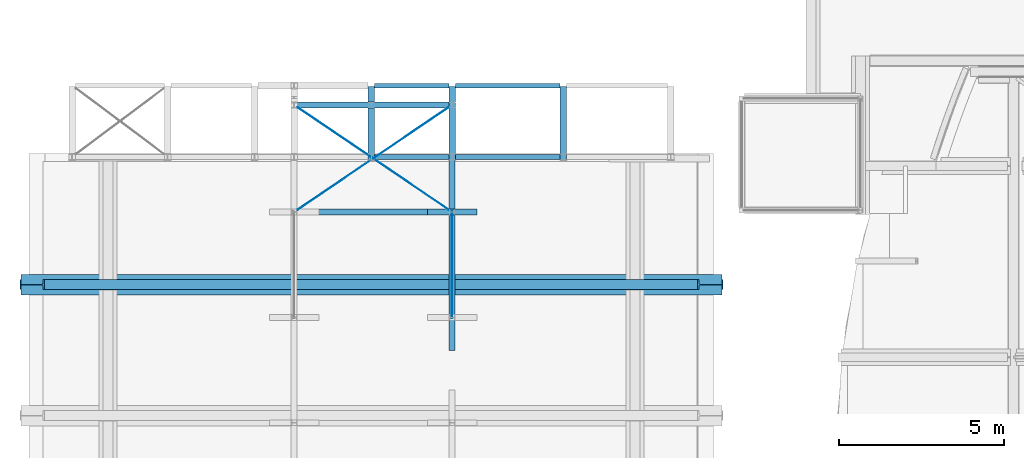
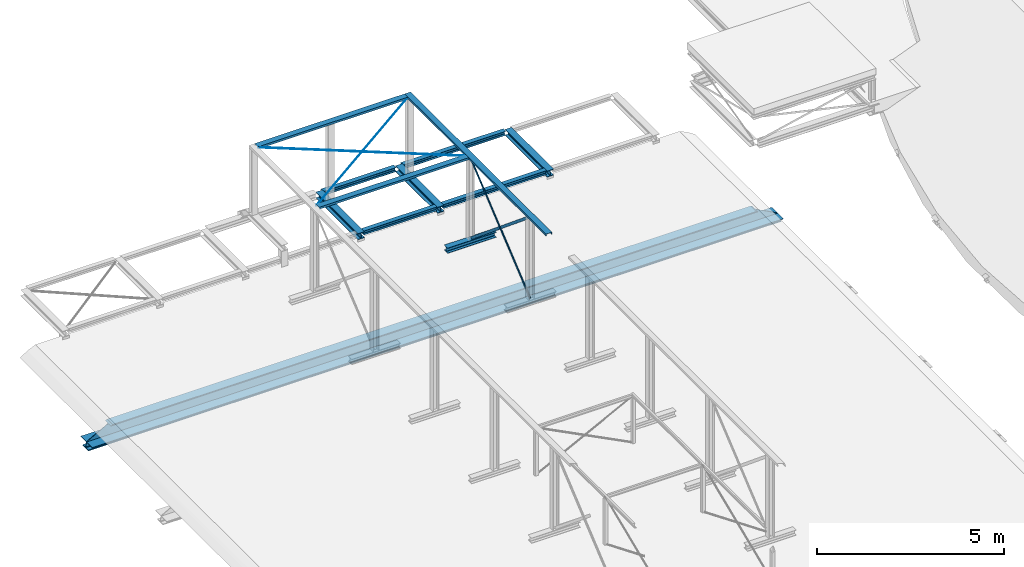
# One storey, part 20 of 50: 16 beams.
"""IFC2X3 building model written with IfcOpenShell, lengths in millimetres."""

from ifc_helpers import new_model, entity, si_unit, converted_unit, derived_unit, direction, frame, frame_2d, origin, place, context, subcontext, project, spatial, polyline, circle_curve, parameter, trimmed, segment, composite_curve, rectangle, circle, i_section, outline, extrude, clip, halfspace, bounded_halfspace, source, transform, mapped, material, material_list, type_object, type_shapes, element, save


model = new_model("IFC2X3")

# Units and contexts
model_context = context("Model", 3, precision=0.01, world=origin(), true_north=direction((6.12303176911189e-17, 1.0)))
body_context = subcontext(model_context, "Body", "Model", "MODEL_VIEW")
ifc_project = project(units=[si_unit("LENGTHUNIT", "METRE", prefix="MILLI"), si_unit("AREAUNIT", "SQUARE_METRE", prefix="MILLI"), si_unit("VOLUMEUNIT", "CUBIC_METRE"), converted_unit("PLANEANGLEUNIT", "DEGREE", entity("IfcRatioMeasure", 0.0174532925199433), si_unit("PLANEANGLEUNIT", "RADIAN"), dimensions=[0, 0, 0, 0, 0, 0, 0]), si_unit("MASSUNIT", "GRAM", prefix="KILO"), derived_unit("MASSDENSITYUNIT", [(si_unit("MASSUNIT", "GRAM", prefix="KILO"), 1), (si_unit("LENGTHUNIT", "METRE"), -3)]), derived_unit("MOMENTOFINERTIAUNIT", [(si_unit("LENGTHUNIT", "METRE"), 4)]), si_unit("TIMEUNIT", "SECOND"), si_unit("FREQUENCYUNIT", "HERTZ"), si_unit("THERMODYNAMICTEMPERATUREUNIT", "DEGREE_CELSIUS"), derived_unit("THERMALTRANSMITTANCEUNIT", [(si_unit("MASSUNIT", "GRAM", prefix="KILO"), 1), (si_unit("THERMODYNAMICTEMPERATUREUNIT", "KELVIN"), -1), (si_unit("TIMEUNIT", "SECOND"), -3)]), derived_unit("VOLUMETRICFLOWRATEUNIT", [(si_unit("LENGTHUNIT", "METRE"), 3), (si_unit("TIMEUNIT", "SECOND"), -1)]), si_unit("ELECTRICCURRENTUNIT", "AMPERE"), si_unit("ELECTRICVOLTAGEUNIT", "VOLT"), si_unit("POWERUNIT", "WATT"), si_unit("FORCEUNIT", "NEWTON", prefix="KILO"), si_unit("ILLUMINANCEUNIT", "LUX"), si_unit("LUMINOUSFLUXUNIT", "LUMEN"), si_unit("LUMINOUSINTENSITYUNIT", "CANDELA"), derived_unit("USERDEFINED", [(si_unit("MASSUNIT", "GRAM", prefix="KILO"), -1), (si_unit("LENGTHUNIT", "METRE"), -2), (si_unit("TIMEUNIT", "SECOND"), 3), (si_unit("LUMINOUSFLUXUNIT", "LUMEN"), 1)]), derived_unit("LINEARVELOCITYUNIT", [(si_unit("LENGTHUNIT", "METRE"), 1), (si_unit("TIMEUNIT", "SECOND"), -1)]), si_unit("PRESSUREUNIT", "PASCAL"), derived_unit("USERDEFINED", [(si_unit("LENGTHUNIT", "METRE"), -2), (si_unit("MASSUNIT", "GRAM", prefix="KILO"), 1), (si_unit("TIMEUNIT", "SECOND"), -2)]), derived_unit("LINEARFORCEUNIT", [(si_unit("MASSUNIT", "GRAM", prefix="KILO"), 1), (si_unit("LENGTHUNIT", "METRE"), 1), (si_unit("TIMEUNIT", "SECOND"), -2), (si_unit("LENGTHUNIT", "METRE"), -1)]), derived_unit("PLANARFORCEUNIT", [(si_unit("MASSUNIT", "GRAM", prefix="KILO"), 1), (si_unit("LENGTHUNIT", "METRE"), 1), (si_unit("TIMEUNIT", "SECOND"), -2), (si_unit("LENGTHUNIT", "METRE"), -2)])], contexts=[model_context])

# Site, building, storey
site_placement = place(None, origin())
site = spatial("IfcSite", under=ifc_project, at=site_placement, Name="Theater aan de Parade", CompositionType="ELEMENT")
building_placement = place(site_placement, origin())
building = spatial("IfcBuilding", under=site, at=building_placement, Name="Theater aan de Parade", CompositionType="ELEMENT")
storey_placement = place(building_placement, frame((0.0, 0.0, 15820.0)))
storey = spatial("IfcBuildingStorey", under=building, at=storey_placement, Name="04 vierde verdieping", CompositionType="ELEMENT", Elevation=15820.0)

# Beams
ifc_material_1 = material(Name="00_PBT_MAT_staal_S355")
beam_type_1 = type_object("IfcBeamType", Name="28_PBT_SF_staal_H-profiel:S355_HE180A", PredefinedType="NOTDEFINED")
beam_1_placement = place(storey_placement, frame((27803.8569986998, 39798.8337248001, 0.0)))
element("IfcBeam", 1, at=beam_1_placement, inside=storey, type_object=beam_type_1, material=ifc_material_1, Name="28_PBT_SF_staal_H-profiel:S355_HE180A", ObjectType="28_PBT_SF_staal_H-profiel:S355_HE180A", context=body_context, shape_type="SweptSolid", body=[
    extrude(i_section(OverallWidth=180.000000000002, OverallDepth=171.0, WebThickness=5.99999999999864, FlangeThickness=9.49999999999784, FilletRadius=14.9999999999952, at=frame_2d((-2.16715534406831e-12, -4.33431068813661e-12), x_axis=(0.0, 1.0))), frame((0.0, 0.0, 184.499999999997), z_axis=(1.0, 0.0, 0.0), x_axis=(0.0, 0.0, -1.0)), (0.0, 0.0, 1.0), 1500.00000000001),
])
beam_type_2 = type_object("IfcBeamType", Name="28_PBT_SF_staal_H-profiel:S355_HE140A", PredefinedType="NOTDEFINED")
beam_2_placement = place(storey_placement, frame((26203.8570025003, 43641.6918178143, 0.0)))
element("IfcBeam", 2, at=beam_2_placement, inside=storey, type_object=beam_type_2, material=ifc_material_1, Name="28_PBT_SF_staal_H-profiel:S355_HE140A", ObjectType="28_PBT_SF_staal_H-profiel:S355_HE140A", context=body_context, shape_type="SweptSolid", body=[
    extrude(outline(composite_curve([segment(polyline([(58.0, -70.0), (66.5000000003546, -70.0)]), True, "CONTINUOUS"), segment(polyline([(66.5000000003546, -70.0), (66.4999999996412, 70.0)]), True, "CONTINUOUS"), segment(polyline([(66.4999999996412, 70.0), (58.0, 70.0)]), True, "CONTINUOUS"), segment(polyline([(58.0, 70.0), (58.0, 14.7500000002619)]), True, "CONTINUOUS"), segment(trimmed(circle_curve(frame_2d((46.0, 14.7500000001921), x_axis=(1.0, 0.0)), 11.9999999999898), [parameter(269.999999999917)], [parameter(0.0)], True, "PARAMETER"), False, "CONTINUOUS"), segment(polyline([(46.0, 2.75000000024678), (-46.0, 2.74999999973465)]), True, "CONTINUOUS"), segment(trimmed(circle_curve(frame_2d((-46.0, 14.7499999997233), x_axis=(0.0, -1.0)), 11.9999999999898), [parameter(269.999999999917)], [parameter(0.0)], True, "PARAMETER"), False, "CONTINUOUS"), segment(polyline([(-58.0, 14.7499999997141), (-58.0, 70.0)]), True, "CONTINUOUS"), segment(polyline([(-58.0, 70.0), (-66.5000000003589, 70.0)]), True, "CONTINUOUS"), segment(polyline([(-66.5000000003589, 70.0), (-66.4999999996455, -70.0)]), True, "CONTINUOUS"), segment(polyline([(-66.4999999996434, -70.0), (-58.0, -70.0)]), True, "CONTINUOUS"), segment(polyline([(-58.0, -70.0), (-58.0, -14.7500000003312)]), True, "CONTINUOUS"), segment(trimmed(circle_curve(frame_2d((-46.0, -14.7500000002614), x_axis=(-1.0, 0.0)), 11.9999999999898), [parameter(269.999999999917)], [parameter(0.0)], True, "PARAMETER"), False, "CONTINUOUS"), segment(polyline([(-46.0, -2.75000000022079), (46.0, -2.74999999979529)]), True, "CONTINUOUS"), segment(trimmed(circle_curve(frame_2d((46.0, -14.7499999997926), x_axis=(0.0, 1.0)), 11.9999999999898), [parameter(269.999999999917)], [parameter(0.0)], True, "PARAMETER"), False, "CONTINUOUS"), segment(polyline([(58.0, -14.7499999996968), (58.0, -70.0)]), True, "CONTINUOUS")], self_intersect=False)), frame((0.0, 0.0, 263.499999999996), z_axis=(1.0, 0.0, 0.0), x_axis=(0.0, 0.0, -1.0)), (0.0, 0.0, 1.0), 2254.49999619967),
])
beam_3_placement = place(storey_placement, frame((28658.3569986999, 43641.6918178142, 0.0)))
element("IfcBeam", 3, at=beam_3_placement, inside=storey, type_object=beam_type_2, material=ifc_material_1, Name="28_PBT_SF_staal_H-profiel:S355_HE140A", ObjectType="28_PBT_SF_staal_H-profiel:S355_HE140A", context=body_context, shape_type="SweptSolid", body=[
    extrude(outline(composite_curve([segment(polyline([(58.0, -70.0), (66.5000000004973, -70.0)]), True, "CONTINUOUS"), segment(polyline([(66.5000000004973, -70.0), (66.4999999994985, 70.0)]), True, "CONTINUOUS"), segment(polyline([(66.4999999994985, 70.0), (58.0, 70.0)]), True, "CONTINUOUS"), segment(polyline([(58.0, 70.0), (58.0, 14.7500000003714)]), True, "CONTINUOUS"), segment(trimmed(circle_curve(frame_2d((46.0, 14.7500000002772), x_axis=(1.0, 0.0)), 11.9999999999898), [parameter(269.999999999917)], [parameter(0.0)], True, "PARAMETER"), False, "CONTINUOUS"), segment(polyline([(46.0, 2.7500000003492), (-46.0, 2.74999999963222)]), True, "CONTINUOUS"), segment(trimmed(circle_curve(frame_2d((-46.0, 14.7499999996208), x_axis=(0.0, -1.0)), 11.9999999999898), [parameter(269.999999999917)], [parameter(0.0)], True, "PARAMETER"), False, "CONTINUOUS"), segment(polyline([(-58.0, 14.7499999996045), (-58.0, 70.0)]), True, "CONTINUOUS"), segment(polyline([(-58.0, 70.0), (-66.5000000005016, 70.0)]), True, "CONTINUOUS"), segment(polyline([(-66.5000000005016, 70.0), (-66.4999999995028, -70.0)]), True, "CONTINUOUS"), segment(polyline([(-66.4999999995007, -70.0), (-58.0, -70.0)]), True, "CONTINUOUS"), segment(polyline([(-58.0, -70.0), (-58.0, -14.7500000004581)]), True, "CONTINUOUS"), segment(trimmed(circle_curve(frame_2d((-46.0, -14.7500000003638), x_axis=(-1.0, 0.0)), 11.9999999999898), [parameter(269.999999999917)], [parameter(0.0)], True, "PARAMETER"), False, "CONTINUOUS"), segment(polyline([(-46.0, -2.75000000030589), (46.0, -2.74999999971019)]), True, "CONTINUOUS"), segment(trimmed(circle_curve(frame_2d((46.0, -14.7499999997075), x_axis=(0.0, 1.0)), 11.9999999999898), [parameter(269.999999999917)], [parameter(0.0)], True, "PARAMETER"), False, "CONTINUOUS"), segment(polyline([(58.0, -14.7499999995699), (58.0, -70.0)]), True, "CONTINUOUS")], self_intersect=False)), frame((0.0, 0.0, 263.499999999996), z_axis=(1.0, 0.0, 0.0), x_axis=(0.0, 0.0, -1.0)), (0.0, 0.0, 1.0), 3174.66547607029),
])
beam_4_placement = place(storey_placement, frame((26203.8570025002, 41473.3083270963, 0.0)))
element("IfcBeam", 4, at=beam_4_placement, inside=storey, type_object=beam_type_2, material=ifc_material_1, Name="28_PBT_SF_staal_H-profiel:S355_HE140A", ObjectType="28_PBT_SF_staal_H-profiel:S355_HE140A", context=body_context, shape_type="SweptSolid", body=[
    extrude(outline(composite_curve([segment(polyline([(58.0, -70.0), (66.5000000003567, -70.0)]), True, "CONTINUOUS"), segment(polyline([(66.5000000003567, -70.0), (66.4999999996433, 70.0)]), True, "CONTINUOUS"), segment(polyline([(66.4999999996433, 70.0), (58.0, 70.0)]), True, "CONTINUOUS"), segment(polyline([(58.0, 70.0), (58.0, 14.7500000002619)]), True, "CONTINUOUS"), segment(trimmed(circle_curve(frame_2d((46.0, 14.7500000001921), x_axis=(1.0, 0.0)), 11.9999999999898), [parameter(269.999999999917)], [parameter(0.0)], True, "PARAMETER"), False, "CONTINUOUS"), segment(polyline([(46.0, 2.75000000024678), (-46.0, 2.74999999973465)]), True, "CONTINUOUS"), segment(trimmed(circle_curve(frame_2d((-46.0, 14.7499999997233), x_axis=(0.0, -1.0)), 11.9999999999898), [parameter(269.999999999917)], [parameter(0.0)], True, "PARAMETER"), False, "CONTINUOUS"), segment(polyline([(-58.0, 14.7499999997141), (-58.0, 70.0)]), True, "CONTINUOUS"), segment(polyline([(-58.0, 70.0), (-66.5000000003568, 70.0)]), True, "CONTINUOUS"), segment(polyline([(-66.5000000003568, 70.0), (-66.4999999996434, -70.0)]), True, "CONTINUOUS"), segment(polyline([(-66.4999999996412, -70.0), (-58.0, -70.0)]), True, "CONTINUOUS"), segment(polyline([(-58.0, -70.0), (-58.0, -14.7500000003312)]), True, "CONTINUOUS"), segment(trimmed(circle_curve(frame_2d((-46.0, -14.7500000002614), x_axis=(-1.0, 0.0)), 11.9999999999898), [parameter(269.999999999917)], [parameter(0.0)], True, "PARAMETER"), False, "CONTINUOUS"), segment(polyline([(-46.0, -2.75000000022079), (46.0, -2.74999999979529)]), True, "CONTINUOUS"), segment(trimmed(circle_curve(frame_2d((46.0, -14.7499999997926), x_axis=(0.0, 1.0)), 11.9999999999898), [parameter(269.999999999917)], [parameter(0.0)], True, "PARAMETER"), False, "CONTINUOUS"), segment(polyline([(58.0, -14.7499999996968), (58.0, -70.0)]), True, "CONTINUOUS")], self_intersect=False)), frame((0.0, 0.0, 295.5), z_axis=(1.0, 0.0, 0.0), x_axis=(0.0, 0.0, -1.0)), (0.0, 0.0, 1.0), 2254.49999619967),
])
beam_5_placement = place(storey_placement, frame((28658.3569986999, 41473.3083270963, 0.0)))
element("IfcBeam", 5, at=beam_5_placement, inside=storey, type_object=beam_type_2, material=ifc_material_1, Name="28_PBT_SF_staal_H-profiel:S355_HE140A", ObjectType="28_PBT_SF_staal_H-profiel:S355_HE140A", context=body_context, shape_type="SweptSolid", body=[
    extrude(outline(composite_curve([segment(polyline([(58.0, -70.0), (66.5000000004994, -70.0)]), True, "CONTINUOUS"), segment(polyline([(66.5000000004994, -70.0), (66.4999999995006, 70.0)]), True, "CONTINUOUS"), segment(polyline([(66.4999999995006, 70.0), (58.0, 70.0)]), True, "CONTINUOUS"), segment(polyline([(58.0, 70.0), (58.0, 14.7500000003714)]), True, "CONTINUOUS"), segment(trimmed(circle_curve(frame_2d((46.0, 14.7500000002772), x_axis=(1.0, 0.0)), 11.9999999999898), [parameter(269.999999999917)], [parameter(0.0)], True, "PARAMETER"), False, "CONTINUOUS"), segment(polyline([(46.0, 2.7500000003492), (-46.0, 2.74999999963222)]), True, "CONTINUOUS"), segment(trimmed(circle_curve(frame_2d((-46.0, 14.7499999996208), x_axis=(0.0, -1.0)), 11.9999999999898), [parameter(269.999999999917)], [parameter(0.0)], True, "PARAMETER"), False, "CONTINUOUS"), segment(polyline([(-58.0, 14.7499999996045), (-58.0, 70.0)]), True, "CONTINUOUS"), segment(polyline([(-58.0, 70.0), (-66.5000000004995, 70.0)]), True, "CONTINUOUS"), segment(polyline([(-66.5000000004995, 70.0), (-66.4999999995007, -70.0)]), True, "CONTINUOUS"), segment(polyline([(-66.4999999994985, -70.0), (-58.0, -70.0)]), True, "CONTINUOUS"), segment(polyline([(-58.0, -70.0), (-58.0, -14.7500000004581)]), True, "CONTINUOUS"), segment(trimmed(circle_curve(frame_2d((-46.0, -14.7500000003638), x_axis=(-1.0, 0.0)), 11.9999999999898), [parameter(269.999999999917)], [parameter(0.0)], True, "PARAMETER"), False, "CONTINUOUS"), segment(polyline([(-46.0, -2.75000000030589), (46.0, -2.74999999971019)]), True, "CONTINUOUS"), segment(trimmed(circle_curve(frame_2d((46.0, -14.7499999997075), x_axis=(0.0, 1.0)), 11.9999999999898), [parameter(269.999999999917)], [parameter(0.0)], True, "PARAMETER"), False, "CONTINUOUS"), segment(polyline([(58.0, -14.7499999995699), (58.0, -70.0)]), True, "CONTINUOUS")], self_intersect=False)), frame((0.0, 0.0, 295.5), z_axis=(1.0, 0.0, 0.0), x_axis=(0.0, 0.0, -1.0)), (0.0, 0.0, 1.0), 3174.66547607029),
])
beam_type_3 = type_object("IfcBeamType", Name="28_PBT_SF_staal_H-profiel:S355_HE200B", PredefinedType="NOTDEFINED")
for number, where, z_axis, x_axis in (
    (6, (26103.8570025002, 43617.3619328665, 0.0), (0.0, 0.0, 1.0), (0.0, -1.0, 0.0)),
    (7, (28558.3569986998, 43617.3619328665, 0.0), (0.0, 0.0, 1.0), (0.0, -1.0, 0.0)),
):
    element("IfcBeam", number, at=place(storey_placement, frame(where, z_axis=z_axis, x_axis=x_axis)), inside=storey, type_object=beam_type_3, material=ifc_material_1, Name="28_PBT_SF_staal_H-profiel:S355_HE200B", ObjectType="28_PBT_SF_staal_H-profiel:S355_HE200B", context=body_context, shape_type="SweptSolid", body=[
        extrude(i_section(OverallWidth=200.000000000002, OverallDepth=200.0, WebThickness=9.00000000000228, FlangeThickness=14.9999999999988, FilletRadius=18.0000000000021, at=frame_2d((-1.08713038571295e-12, -6.50146603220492e-12), x_axis=(0.0, 1.0))), frame((0.0, 0.0, 262.0), z_axis=(1.0, 0.0, 0.0), x_axis=(0.0, 0.0, -1.0)), (0.0, 0.0, 1.0), 2244.0536057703),
    ])
beam_6_placement = place(storey_placement, frame((31933.0224747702, 43617.3619328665, 0.0), z_axis=(0.0, 0.0, 1.0), x_axis=(0.0, -1.0, 0.0)))
element("IfcBeam", 8, at=beam_6_placement, inside=storey, type_object=beam_type_3, material=ifc_material_1, Name="28_PBT_SF_staal_H-profiel:S355_HE200B", ObjectType="28_PBT_SF_staal_H-profiel:S355_HE200B", context=body_context, shape_type="SweptSolid", body=[
    extrude(i_section(OverallWidth=200.000000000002, OverallDepth=200.0, WebThickness=9.00000000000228, FlangeThickness=14.9999999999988, FilletRadius=18.0000000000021, at=frame_2d((-1.08713038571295e-12, -2.16715534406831e-12), x_axis=(0.0, 1.0))), frame((0.0, 0.0, 262.0), z_axis=(1.0, 0.0, 0.0), x_axis=(0.0, 0.0, -1.0)), (0.0, 0.0, 1.0), 2244.0536057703),
])
ifc_material_2 = material(Name="00_PBT_MAT_Lucht")
ifc_material_list = material_list([ifc_material_2, ifc_material_1])
beam_type_4 = type_object("IfcBeamType", Name="28_PBT_SF_staal_H-profiel_met_oplegstrippen (void):S355_HE600B + oplegstrippen d=15_vloer h=500", PredefinedType="BEAM", material=ifc_material_list)
shared_shape = source(origin(), body_context, "Body", "Clipping", [
    clip(clip(clip(clip(extrude(i_section(OverallWidth=300.00000000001, OverallDepth=600.0, WebThickness=15.4999999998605, FlangeThickness=29.9999999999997, FilletRadius=26.9999999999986, at=frame_2d((1.08002495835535e-12, -6.49436060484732e-12), x_axis=(0.0, 1.0))), frame((15427.3042052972, 37594.2274014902, 15490.0), z_axis=(1.0, 0.0, 0.0), x_axis=(0.0, 0.0, -1.0)), (0.0, 0.0, 1.0), 21352.8563544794), bounded_halfspace(frame((36780.1605597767, 60206.3639688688, 15190.0), z_axis=(0.990313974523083, 0.0, 0.138846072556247), x_axis=(0.0, -1.0, 0.0)), False, frame((15427.3042052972, 37594.2274014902, 15490.0), z_axis=(1.0, 0.0, 0.0), x_axis=(0.0, 0.0, -1.0)), polyline([(101.500000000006, 7.74999999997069), (101.499999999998, -7.75000000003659), (243.0, -7.75000000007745), (270.0, -34.750000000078), (270.0, -150.0), (300.0, -150.0), (300.0, 150.0), (270.0, 150.0), (270.0, 34.7499999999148), (243.0, 7.74999999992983), (101.500000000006, 7.74999999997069)]))), bounded_halfspace(frame((36752.3300473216, 60206.3639688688, 15388.5000000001), z_axis=(0.474088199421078, 0.0, 0.880477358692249), x_axis=(0.0, -1.0, 0.0)), False, frame((15427.3042052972, 37594.2274014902, 15490.0), z_axis=(1.0, 0.0, 0.0), x_axis=(0.0, 0.0, -1.0)), polyline([(101.500000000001, -7.75000000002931), (101.50000000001, 7.74999999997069), (-64.1883202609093, 7.75000000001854), (-243.0, 7.75000000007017), (-270.0, 34.7500000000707), (-270.0, 150.0), (-300.0, 150.0), (-300.0, -150.0), (-270.0, -150.0), (-270.0, -34.749999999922), (-243.0, -7.74999999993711), (-64.1883202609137, -7.74999999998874), (101.500000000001, -7.75000000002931)]))), bounded_halfspace(frame((15427.3042052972, 14982.0908341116, 15190.0), z_axis=(-0.989382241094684, 0.0, 0.145336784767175), x_axis=(0.0, 1.0, 0.0)), False, frame((15427.3042052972, 37594.2274014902, 15490.0), z_axis=(1.0, 0.0, 0.0), x_axis=(0.0, 0.0, -1.0)), polyline([(100.0, -7.7500000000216), (100.0, 7.7499999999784), (243.0, 7.74999999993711), (270.0, 34.749999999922), (270.0, 150.0), (300.0, 150.0), (300.0, -150.0), (270.0, -150.0), (270.0, -34.7500000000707), (243.0, -7.75000000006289), (100.0, -7.7500000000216)]))), bounded_halfspace(frame((15456.6835045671, 14982.0908341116, 15390.0), z_axis=(-0.484809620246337, 0.0, 0.874619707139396), x_axis=(0.0, 1.0, 0.0)), False, frame((15427.3042052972, 37594.2274014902, 15490.0), z_axis=(1.0, 0.0, 0.0), x_axis=(0.0, 0.0, -1.0)), polyline([(100.0, 7.7499999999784), (100.0, -7.7500000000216), (-68.1459013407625, -7.74999999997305), (-243.0, -7.74999999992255), (-270.0, -34.7499999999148), (-270.0, -150.0), (-300.0, -150.0), (-300.0, 150.0), (-270.0, 150.0), (-270.0, 34.750000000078), (-243.0, 7.75000000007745), (-68.1459013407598, 7.75000000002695), (100.0, 7.7499999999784)]))),
    clip(clip(clip(extrude(rectangle(XDim=15.0000000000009, YDim=300.000000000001, at=frame_2d((8.66862137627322e-12, 1.08268949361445e-12), x_axis=(0.0, 1.0))), frame((15454.4800571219, 37751.9774014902, 15382.5), z_axis=(1.0, 0.0, 0.0), x_axis=(0.0, 1.0, 0.0)), (0.0, 0.0, 1.0), 21299.7427454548), halfspace(frame((15427.3042052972, 14982.0908341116, 15190.0), z_axis=(-0.989382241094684, 0.0, 0.145336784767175), x_axis=(0.0, 1.0, 0.0)), False)), bounded_halfspace(frame((36780.1605597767, 60206.3639688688, 15190.0), z_axis=(0.990313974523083, 0.0, 0.138846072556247), x_axis=(0.0, -1.0, 0.0)), False, frame((15454.4800571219, 37751.9774014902, 15382.5), z_axis=(1.0, 0.0, 0.0), x_axis=(0.0, 1.0, 0.0)), polyline([(150.0, 6.0), (-150.0, 6.0), (-150.0, -7.49999999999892), (150.0, -7.49999999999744), (150.0, 6.0)]))), bounded_halfspace(frame((36752.3300473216, 60206.3639688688, 15388.5000000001), z_axis=(0.474088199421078, 0.0, 0.880477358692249), x_axis=(0.0, -1.0, 0.0)), False, frame((15454.4800571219, 37751.9774014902, 15382.5), z_axis=(1.0, 0.0, 0.0), x_axis=(0.0, 1.0, 0.0)), polyline([(-150.0, 6.0), (150.0, 6.0), (150.0, 7.50000000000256), (-150.0, 7.49999999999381), (-150.0, 6.0)]))),
    clip(clip(extrude(rectangle(XDim=11.9999999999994, YDim=300.000000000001, at=frame_2d((2.16582307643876e-12, 1.08286712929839e-11), x_axis=(1.0, 0.0))), frame((15454.7004018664, 37436.4774014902, 15382.5), z_axis=(1.0, 0.0, 0.0), x_axis=(0.0, 0.0, -1.0)), (0.0, 0.0, 1.0), 21299.3120945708), halfspace(frame((36780.1605597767, 60206.3639688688, 15190.0), z_axis=(0.990313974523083, 0.0, 0.138846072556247), x_axis=(0.0, -1.0, 0.0)), False)), halfspace(frame((15427.3042052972, 14982.0908341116, 15190.0), z_axis=(-0.989382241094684, 0.0, 0.145336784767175), x_axis=(0.0, 1.0, 0.0)), False)),
])
type_shapes(beam_type_4, [shared_shape])
beam_7_placement = place(storey_placement, frame((0.0, 0.0, -15820.0)))
element("IfcBeam", 9, at=beam_7_placement, inside=storey, type_object=beam_type_4, material=ifc_material_1, Name="28_PBT_SF_staal_H-profiel_met_oplegstrippen (void):S355_HE600B + oplegstrippen d=15_vloer h=500", ObjectType="28_PBT_SF_staal_H-profiel_met_oplegstrippen (void):S355_HE600B + oplegstrippen d=15_vloer h=500", context=body_context, shape_type="MappedRepresentation", body=[
    mapped(shared_shape, transform((0.0, 0.0, 0.0), scale=1.0)),
])
ifc_material_3 = material(Name="00_PBT_MAT_staal")
beam_type_5 = type_object("IfcBeamType", Name="28_PBT_SF_staal_strip:strip 8x80", PredefinedType="NOTDEFINED")
beam_8_placement = place(storey_placement, frame((28557.8569986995, 39755.4039096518, 308.374451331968), z_axis=(0.0, 0.637236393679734, 0.770668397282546), x_axis=(0.0, -0.770668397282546, 0.637236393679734)))
element("IfcBeam", 10, at=beam_8_placement, inside=storey, type_object=beam_type_5, material=ifc_material_3, Name="28_PBT_SF_staal_strip:strip 8x80", ObjectType="28_PBT_SF_staal_strip:strip 8x80", context=body_context, shape_type="SweptSolid", body=[
    extrude(rectangle(XDim=79.9999999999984, YDim=7.99999999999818, at=frame_2d((3.59534624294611e-12, 4.33142410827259e-12), x_axis=(1.0, 0.0))), frame((0.0, 0.0, 0.0), z_axis=(1.0, 0.0, 0.0), x_axis=(0.0, 0.0, -1.0)), (0.0, 0.0, 1.0), 4099.20373673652),
])
beam_9_placement = place(storey_placement, frame((28549.8569987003, 36598.2330810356, 267.103358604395), z_axis=(0.0, -0.637904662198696, 0.770115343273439), x_axis=(0.0, 0.770115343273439, 0.637904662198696)))
element("IfcBeam", 11, at=beam_9_placement, inside=storey, type_object=beam_type_5, material=ifc_material_3, Name="28_PBT_SF_staal_strip:strip 8x80", ObjectType="28_PBT_SF_staal_strip:strip 8x80", context=body_context, shape_type="SweptSolid", body=[
    extrude(rectangle(XDim=80.0000000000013, YDim=8.00000000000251, at=frame_2d((-8.34887714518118e-13, 0.0), x_axis=(1.0, 0.0))), frame((0.0, 0.0, 0.0), z_axis=(1.0, 0.0, 0.0), x_axis=(0.0, 0.0, -1.0)), (0.0, 0.0, 1.0), 4154.81645330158),
])
beam_type_6 = type_object("IfcBeamType", Name="28_PBT_SF_staal_UNP-profiel:S355_UNP180", PredefinedType="NOTDEFINED")
beam_10_placement = place(storey_placement, frame((28463.8569986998, 43050.2508721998, 2990.0), z_axis=(0.0, 0.0, 1.0), x_axis=(-1.0, 0.0, 0.0)))
element("IfcBeam", 12, at=beam_10_placement, inside=storey, type_object=beam_type_6, material=ifc_material_1, Name="28_PBT_SF_staal_UNP-profiel:S355_UNP180", ObjectType="28_PBT_SF_staal_UNP-profiel:S355_UNP180", context=body_context, shape_type="SweptSolid", body=[
    extrude(outline(composite_curve([segment(polyline([(-38.510233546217, -90.0), (31.4897664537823, -90.0)]), True, "CONTINUOUS"), segment(polyline([(31.4897664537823, -90.0), (31.4897664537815, -86.8775719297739)]), True, "CONTINUOUS"), segment(trimmed(circle_curve(frame_2d((25.9897664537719, -86.8775719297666), x_axis=(1.0, 0.0)), 5.50000000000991), [parameter(0.0)], [parameter(85.4260787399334)], True, "PARAMETER"), True, "CONTINUOUS"), segment(polyline([(26.4283651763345, -81.3950878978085), (-20.3874309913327, -77.6498242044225)]), True, "CONTINUOUS"), segment(trimmed(circle_curve(frame_2d((-19.5102335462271, -66.684856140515), x_axis=(-0.0797452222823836, -0.996815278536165)), 10.9999999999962), [parameter(274.573921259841)], [parameter(0.0)], True, "PARAMETER"), False, "CONTINUOUS"), segment(polyline([(-30.5102335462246, -66.6848561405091), (-30.5102335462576, 66.6848561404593)]), True, "CONTINUOUS"), segment(trimmed(circle_curve(frame_2d((-19.5102335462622, 66.684856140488), x_axis=(-1.0, 0.0)), 10.9999999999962), [parameter(274.573921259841)], [parameter(0.0)], True, "PARAMETER"), False, "CONTINUOUS"), segment(polyline([(-20.3874309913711, 77.6498242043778), (26.4283651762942, 81.3950878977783)]), True, "CONTINUOUS"), segment(trimmed(circle_curve(frame_2d((25.9897664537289, 86.8775719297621), x_axis=(0.0797452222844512, -0.996815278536)), 5.50000000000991), [parameter(0.0)], [parameter(85.4260787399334)], True, "PARAMETER"), True, "CONTINUOUS"), segment(polyline([(31.4897664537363, 86.8775719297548), (31.4897664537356, 90.0)]), True, "CONTINUOUS"), segment(polyline([(31.4897664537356, 90.0), (-38.5102335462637, 90.0)]), True, "CONTINUOUS"), segment(polyline([(-38.5102335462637, 90.0), (-38.5102335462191, -90.0)]), True, "CONTINUOUS")], self_intersect=False)), frame((0.0, 0.0, -38.5102335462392), z_axis=(1.0, 0.0, 0.0), x_axis=(0.0, 0.0, -1.0)), (0.0, 0.0, 1.0), 4620.00000000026),
])
beam_11_placement = place(storey_placement, frame((28463.8569986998, 39798.8337248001, 2990.0), z_axis=(0.0, 0.0, 1.0), x_axis=(-1.0, 0.0, 0.0)))
element("IfcBeam", 13, at=beam_11_placement, inside=storey, type_object=beam_type_6, material=ifc_material_1, Name="28_PBT_SF_staal_UNP-profiel:S355_UNP180", ObjectType="28_PBT_SF_staal_UNP-profiel:S355_UNP180", context=body_context, shape_type="SweptSolid", body=[
    extrude(outline(composite_curve([segment(polyline([(-38.510233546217, -90.0), (31.4897664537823, -90.0)]), True, "CONTINUOUS"), segment(polyline([(31.4897664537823, -90.0), (31.4897664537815, -86.8775719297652)]), True, "CONTINUOUS"), segment(trimmed(circle_curve(frame_2d((25.9897664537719, -86.8775719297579), x_axis=(1.0, 0.0)), 5.50000000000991), [parameter(0.0)], [parameter(85.4260787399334)], True, "PARAMETER"), True, "CONTINUOUS"), segment(polyline([(26.4283651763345, -81.3950878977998), (-20.3874309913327, -77.6498242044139)]), True, "CONTINUOUS"), segment(trimmed(circle_curve(frame_2d((-19.5102335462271, -66.6848561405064), x_axis=(-0.0797452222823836, -0.996815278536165)), 10.9999999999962), [parameter(274.573921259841)], [parameter(0.0)], True, "PARAMETER"), False, "CONTINUOUS"), segment(polyline([(-30.5102335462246, -66.6848561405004), (-30.5102335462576, 66.684856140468)]), True, "CONTINUOUS"), segment(trimmed(circle_curve(frame_2d((-19.5102335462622, 66.6848561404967), x_axis=(-1.0, 0.0)), 10.9999999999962), [parameter(274.573921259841)], [parameter(0.0)], True, "PARAMETER"), False, "CONTINUOUS"), segment(polyline([(-20.3874309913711, 77.6498242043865), (26.4283651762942, 81.3950878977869)]), True, "CONTINUOUS"), segment(trimmed(circle_curve(frame_2d((25.9897664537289, 86.8775719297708), x_axis=(0.0797452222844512, -0.996815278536)), 5.50000000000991), [parameter(0.0)], [parameter(85.4260787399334)], True, "PARAMETER"), True, "CONTINUOUS"), segment(polyline([(31.4897664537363, 86.8775719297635), (31.4897664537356, 90.0)]), True, "CONTINUOUS"), segment(polyline([(31.4897664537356, 90.0), (-38.5102335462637, 90.0)]), True, "CONTINUOUS"), segment(polyline([(-38.5102335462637, 90.0), (-38.5102335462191, -90.0)]), True, "CONTINUOUS")], self_intersect=False)), frame((0.0, 0.0, -38.5102335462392), z_axis=(1.0, 0.0, 0.0), x_axis=(0.0, 0.0, -1.0)), (0.0, 0.0, 1.0), 4620.00000000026),
])
beam_12_placement = place(storey_placement, frame((28553.8569986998, 35598.8337248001, 2990.0), z_axis=(0.0, 0.0, 1.0), x_axis=(0.0, 1.0, 0.0)))
element("IfcBeam", 14, at=beam_12_placement, inside=storey, type_object=beam_type_6, material=ifc_material_1, Name="28_PBT_SF_staal_UNP-profiel:S355_UNP180", ObjectType="28_PBT_SF_staal_UNP-profiel:S355_UNP180", context=body_context, shape_type="SweptSolid", body=[
    extrude(outline(composite_curve([segment(polyline([(-38.5102335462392, -90.0), (31.48976645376, -90.0)]), True, "CONTINUOUS"), segment(polyline([(31.48976645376, -90.0), (31.48976645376, -86.877571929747)]), True, "CONTINUOUS"), segment(trimmed(circle_curve(frame_2d((25.9897664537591, -86.8775719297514), x_axis=(1.0, 0.0)), 5.50000000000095), [parameter(0.0)], [parameter(85.4260787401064)], True, "PARAMETER"), True, "CONTINUOUS"), segment(polyline([(26.4283651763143, -81.395087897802), (-20.3874309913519, -77.6498242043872)]), True, "CONTINUOUS"), segment(trimmed(circle_curve(frame_2d((-19.5102335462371, -66.6848561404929), x_axis=(-0.0797452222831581, -0.996815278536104)), 11.0000000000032), [parameter(274.573921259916)], [parameter(0.0)], True, "PARAMETER"), False, "CONTINUOUS"), segment(polyline([(-30.5102335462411, -66.6848561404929), (-30.5102335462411, 66.6848561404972)]), True, "CONTINUOUS"), segment(trimmed(circle_curve(frame_2d((-19.5102335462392, 66.6848561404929), x_axis=(-1.0, 0.0)), 11.0000000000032), [parameter(274.573921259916)], [parameter(0.0)], True, "PARAMETER"), False, "CONTINUOUS"), segment(polyline([(-20.3874309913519, 77.6498242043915), (26.4283651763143, 81.3950878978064)]), True, "CONTINUOUS"), segment(trimmed(circle_curve(frame_2d((25.9897664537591, 86.8775719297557), x_axis=(0.0797452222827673, -0.996815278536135)), 5.50000000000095), [parameter(0.0)], [parameter(85.4260787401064)], True, "PARAMETER"), True, "CONTINUOUS"), segment(polyline([(31.4897664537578, 86.8775719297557), (31.4897664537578, 90.0)]), True, "CONTINUOUS"), segment(polyline([(31.4897664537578, 90.0), (-38.5102335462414, 90.0)]), True, "CONTINUOUS"), segment(polyline([(-38.5102335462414, 90.0), (-38.5102335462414, -90.0)]), True, "CONTINUOUS")], self_intersect=False)), frame((0.0, 0.0, -38.5102335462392), z_axis=(1.0, 0.0, 0.0), x_axis=(0.0, 0.0, -1.0)), (0.0, 0.0, 1.0), 7541.41714739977),
])
beam_type_7 = type_object("IfcBeamType", Name="28_PBT_SF_staal_massief_rond:S355_D20", PredefinedType="NOTDEFINED")
beam_13_placement = place(storey_placement, frame((23753.8569986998, 39798.8337248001, 2990.0), z_axis=(0.0, 0.0, 1.0), x_axis=(0.827934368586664, 0.560825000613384, 0.0)))
element("IfcBeam", 15, at=beam_13_placement, inside=storey, type_object=beam_type_7, material=ifc_material_1, Name="28_PBT_SF_staal_massief_rond:S355_D20", ObjectType="28_PBT_SF_staal_massief_rond:S355_D20", context=body_context, shape_type="SweptSolid", body=[
    extrude(circle(Radius=10.0000000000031, at=frame_2d((-4.69040487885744e-25, -2.16573425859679e-12), x_axis=(1.0, 0.0))), frame((122.742840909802, 0.0, -35.0), z_axis=(1.0, 0.0, 0.0), x_axis=(0.0, 1.0, 0.0)), (0.0, 0.0, 1.0), 5546.64009765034),
])
beam_14_placement = place(storey_placement, frame((28553.8569986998, 39798.8337248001, 2990.0), z_axis=(0.0, 0.0, 1.0), x_axis=(-0.827934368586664, 0.560825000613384, 0.0)))
element("IfcBeam", 16, at=beam_14_placement, inside=storey, type_object=beam_type_7, material=ifc_material_1, Name="28_PBT_SF_staal_massief_rond:S355_D20", ObjectType="28_PBT_SF_staal_massief_rond:S355_D20", context=body_context, shape_type="SweptSolid", body=[
    extrude(circle(Radius=10.0000000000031, at=frame_2d((-4.69040487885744e-25, -2.16573425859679e-12), x_axis=(1.0, 0.0))), frame((122.742840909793, 0.0, -35.0), z_axis=(1.0, 0.0, 0.0), x_axis=(0.0, 1.0, 0.0)), (0.0, 0.0, 1.0), 5546.64009765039),
])

save(model, "model.ifc")
